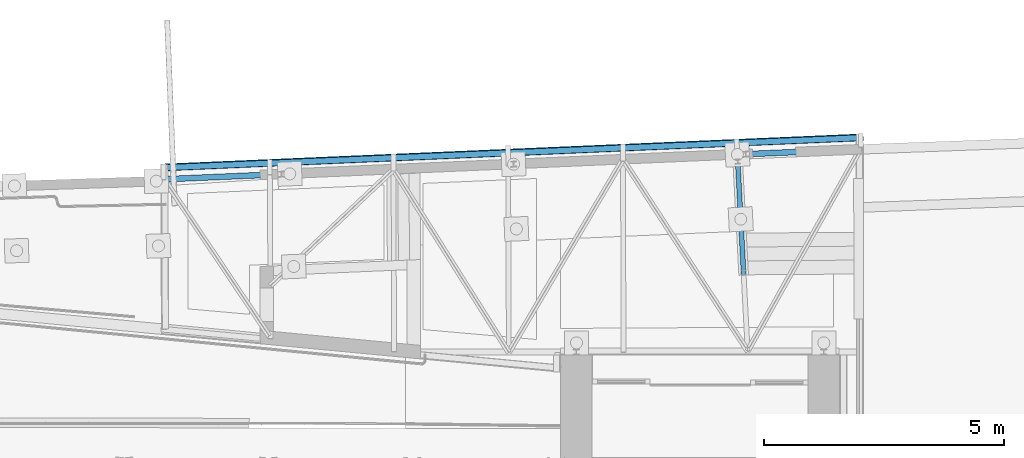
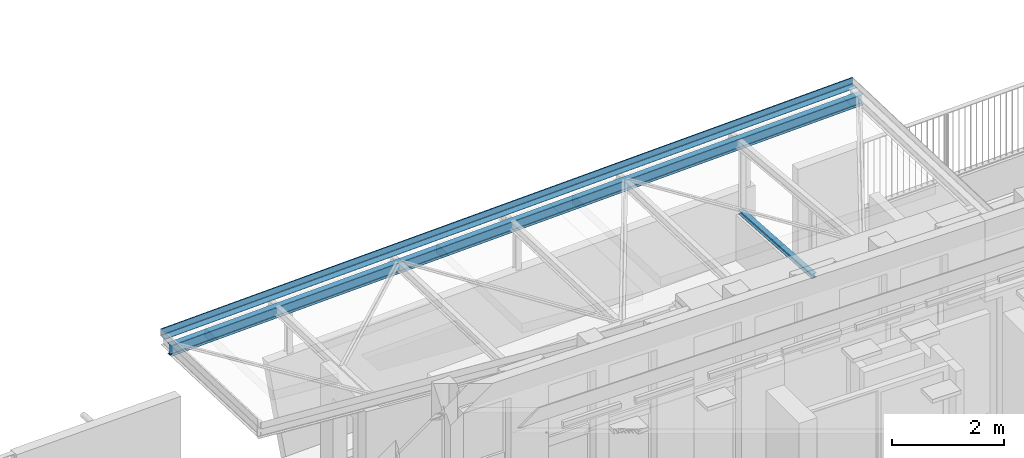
# One storey, part 12 of 128: 3 beams.
"""IFC2X3 building model written with IfcOpenShell, lengths in metres."""

import ifcopenshell
import ifcopenshell.guid

model = None  # the IFC model being written
_history = None  # IfcOwnerHistory: only IFC2X3 demands one
_inside = {}  # id of a spatial element -> (the spatial element, [elements in it])
_under = {}  # id of a project, library or spatial element -> (it, [spatial elements below it])
_declared = {}  # id of a project -> (the project, [libraries it declares])
_typed = {}  # id of a type object -> (the type object, [elements of that type])
_made_of = {}  # id of a material, layer set ... -> (it, [elements and type objects made of it])


def new_model(schema):
    """Start an empty IFC model of exactly this schema.

    Asked for "IFC4X3", IfcOpenShell would pick the latest addendum, in which some entities
    have other attributes; the version numbers below select the first issue.
    IFC2X3 requires an IfcOwnerHistory on every rooted entity: one is made here for all.
    """
    global model, _history
    if schema == "IFC4X3":
        model = ifcopenshell.file(schema_version=(4, 3, 0, 0))
    else:
        model = ifcopenshell.file(schema=schema)
    _inside.clear()
    _under.clear()
    _declared.clear()
    _typed.clear()
    _made_of.clear()
    _history = None
    if model.schema == "IFC2X3":
        org = make("IfcOrganization", Name="unknown")
        user = make(
            "IfcPersonAndOrganization",
            ThePerson=make("IfcPerson", FamilyName="unknown"),
            TheOrganization=org,
        )
        app = make(
            "IfcApplication",
            ApplicationDeveloper=org,
            Version="unknown",
            ApplicationFullName="unknown",
            ApplicationIdentifier="unknown",
        )
        _history = make(
            "IfcOwnerHistory",
            OwningUser=user,
            OwningApplication=app,
            ChangeAction="ADDED",
            CreationDate=0,
        )
    return model


def make(cls, **values):
    """One entity of the class cls with the attributes given. An attribute that is None is left unset."""
    return model.create_entity(
        cls, **{name: value for name, value in values.items() if value is not None}
    )


def entity(cls, *values):
    """Any entity or typed value of the class cls, its attributes in the order of the schema. None: left unset."""
    e = model.create_entity(cls)
    for i, value in enumerate(values):
        if value is not None:
            e[i] = value
    return e


def rooted(cls, **values):
    """An entity with a GlobalId (a new one), such as an element, a storey or a relation."""
    return make(cls, GlobalId=ifcopenshell.guid.new(), OwnerHistory=_history, **values)


def si_unit(unit_type, name, prefix=None):
    """IfcSIUnit, for example si_unit("LENGTHUNIT", "METRE", prefix="MILLI")."""
    return make("IfcSIUnit", UnitType=unit_type, Prefix=prefix, Name=name)


def converted_unit(unit_type, name, factor, base, dimensions=None, offset=None):
    """IfcConversionBasedUnit, such as the inch: factor (a typed value) times the base unit."""
    return make(
        "IfcConversionBasedUnit"
        if offset is None
        else "IfcConversionBasedUnitWithOffset",
        ConversionOffset=offset,
        Dimensions=None
        if dimensions is None
        else entity("IfcDimensionalExponents", *dimensions),
        UnitType=unit_type,
        Name=name,
        ConversionFactor=make(
            "IfcMeasureWithUnit", ValueComponent=factor, UnitComponent=base
        ),
    )


def derived_unit(unit_type, elements):
    """IfcDerivedUnit: a product of units, each with its exponent."""
    return make(
        "IfcDerivedUnit",
        Elements=[
            make("IfcDerivedUnitElement", Unit=unit, Exponent=power)
            for unit, power in elements
        ],
        UnitType=unit_type,
    )


def assignment(units):
    """IfcUnitAssignment: the units of a project."""
    return None if units is None else make("IfcUnitAssignment", Units=units)


def point(xyz):
    """IfcCartesianPoint."""
    return None if xyz is None else make("IfcCartesianPoint", Coordinates=xyz)


def direction(xyz):
    """IfcDirection."""
    return None if xyz is None else make("IfcDirection", DirectionRatios=xyz)


def frame(location, z_axis=None, x_axis=None):
    """IfcAxis2Placement3D, a coordinate frame: its origin and axes. An axis left out is left unset."""
    return make(
        "IfcAxis2Placement3D",
        Location=point(location),
        Axis=direction(z_axis),
        RefDirection=direction(x_axis),
    )


def frame_2d(location, x_axis=None):
    """IfcAxis2Placement2D, a coordinate frame in the plane: its origin and x axis."""
    return make(
        "IfcAxis2Placement2D", Location=point(location), RefDirection=direction(x_axis)
    )


def origin():
    """The frame at (0, 0, 0) with its axes left unset."""
    return frame((0.0, 0.0, 0.0))


def place(relative_to, where):
    """IfcLocalPlacement: puts the frame where relative to a parent placement (None: the world)."""
    return make(
        "IfcLocalPlacement", PlacementRelTo=relative_to, RelativePlacement=where
    )


def context(
    kind, dimensions, precision=None, world=None, true_north=None, identifier=None
):
    """IfcGeometricRepresentationContext, for example the 3D "Model" context."""
    return make(
        "IfcGeometricRepresentationContext",
        ContextIdentifier=identifier,
        ContextType=kind,
        CoordinateSpaceDimension=dimensions,
        Precision=precision,
        WorldCoordinateSystem=world,
        TrueNorth=true_north,
    )


def subcontext(parent, identifier, kind, view, scale=None):
    """IfcGeometricRepresentationSubContext, for example "Body" below "Model"."""
    return make(
        "IfcGeometricRepresentationSubContext",
        ContextIdentifier=identifier,
        ContextType=kind,
        ParentContext=parent,
        TargetScale=scale,
        TargetView=view,
    )


def project(units=None, contexts=None):
    """IfcProject with its units and contexts."""
    return rooted(
        "IfcProject",
        Name="project",
        RepresentationContexts=contexts,
        UnitsInContext=assignment(units),
    )


def spatial(cls, under=None, at=None, **own):
    """A site, building, storey or space (cls), placed at a placement, below another one or the project."""
    s = rooted(cls, ObjectPlacement=at, **own)
    if under is not None:
        _under.setdefault(under.id(), (under, []))[1].append(s)
    return s


def polyline(points):
    """IfcPolyline through the points."""
    return make("IfcPolyline", Points=[point(p) for p in points])


def circle_curve(where, radius):
    """IfcCircle in the frame where."""
    return make("IfcCircle", Position=where, Radius=radius)


def parameter(value):
    """IfcParameterValue: where a trimmed curve begins or ends, as a parameter of its basis curve."""
    return model.create_entity("IfcParameterValue", value)


def trimmed(basis, trim1, trim2, sense, master):
    """IfcTrimmedCurve: the piece of a basis curve between two trims."""
    return make(
        "IfcTrimmedCurve",
        BasisCurve=basis,
        Trim1=trim1,
        Trim2=trim2,
        SenseAgreement=sense,
        MasterRepresentation=master,
    )


def segment(curve, same_sense, transition):
    """IfcCompositeCurveSegment."""
    return make(
        "IfcCompositeCurveSegment",
        Transition=transition,
        SameSense=same_sense,
        ParentCurve=curve,
    )


def composite_curve(segments, self_intersect=None):
    """IfcCompositeCurve: segments joined end to end."""
    return make("IfcCompositeCurve", Segments=segments, SelfIntersect=self_intersect)


def profile(cls, at=None, kind="AREA", **sizes):
    """A parametric profile (cls). Its sizes go by their IFC names, for example OverallWidth=200.0."""
    return make(cls, ProfileType=kind, Position=at, **sizes)


def i_section(**sizes):
    """IfcIShapeProfileDef."""
    return profile("IfcIShapeProfileDef", **sizes)


def outline(outer, holes=None, kind="AREA"):
    """IfcArbitraryClosedProfileDef: a profile drawn as a closed curve; with holes, ...WithVoids."""
    if holes is None:
        return make("IfcArbitraryClosedProfileDef", ProfileType=kind, OuterCurve=outer)
    return make(
        "IfcArbitraryProfileDefWithVoids",
        ProfileType=kind,
        OuterCurve=outer,
        InnerCurves=holes,
    )


def extrude(swept, where, along, depth):
    """IfcExtrudedAreaSolid: the profile swept, set in the frame where, extruded along a direction by depth."""
    return make(
        "IfcExtrudedAreaSolid",
        SweptArea=swept,
        Position=where,
        ExtrudedDirection=direction(along),
        Depth=depth,
    )


def shape(context_of_items, identifier, shape_type, items):
    """IfcShapeRepresentation: the items that make up one representation, for example the "Body"."""
    return make(
        "IfcShapeRepresentation",
        ContextOfItems=context_of_items,
        RepresentationIdentifier=identifier,
        RepresentationType=shape_type,
        Items=items,
    )


def material(Name=None, Category=None):
    """IfcMaterial."""
    return make("IfcMaterial", Name=Name, Category=Category)


def made_of(thing, what):
    """Note that an element or type object is made of a material, layer set ...; save() writes the relation."""
    if what is not None:
        _made_of.setdefault(what.id(), (what, []))[1].append(thing)
    return thing


def type_object(cls, material=None, **own):
    """A type object (cls), such as IfcWallType, which elements share."""
    return made_of(rooted(cls, **own), material)


def element(
    cls,
    number,
    at=None,
    inside=None,
    cuts=None,
    type_object=None,
    material=None,
    context=None,
    identifier="Body",
    shape_type=None,
    held_by="IfcProductDefinitionShape",
    body=None,
    shapes=None,
    **own,
):
    """One element of the class cls, such as IfcWall. Its Tag is "e" and its number.

    at: its placement. inside: the storey or other place that contains it. cuts: it is an
    opening in that element (IfcRelVoidsElement). A single representation is given by context,
    identifier, shape_type and body (its items); several are given by shapes. held_by: the class
    of the entity that holds the representations. save() writes the other relations.
    """
    e = rooted(cls, Tag="e%d" % number, ObjectPlacement=at, **own)
    if body is not None:
        shapes = [shape(context, identifier, shape_type, body)]
    if shapes is not None:
        e.Representation = make(held_by, Representations=shapes)
    if inside is not None:
        _inside.setdefault(inside.id(), (inside, []))[1].append(e)
    if cuts is not None:
        rooted(
            "IfcRelVoidsElement", RelatingBuildingElement=cuts, RelatedOpeningElement=e
        )
    if type_object is not None:
        _typed.setdefault(type_object.id(), (type_object, []))[1].append(e)
    return made_of(e, material)


def aggregate(whole, parts):
    """IfcRelAggregates: a whole, such as a stair, and the parts it consists of."""
    return rooted("IfcRelAggregates", RelatingObject=whole, RelatedObjects=parts)


def save(model, path):
    """Write the relations noted so far, then the file.

    IfcRelAggregates (storeys below a building ...), IfcRelContainedInSpatialStructure (elements
    in a storey), IfcRelDefinesByType, IfcRelAssociatesMaterial and IfcRelDeclares: one each for
    every whole, place, type object, material and project.
    """
    for whole, parts in _under.values():
        aggregate(whole, parts)
    for where, things in _inside.values():
        rooted(
            "IfcRelContainedInSpatialStructure",
            RelatedElements=things,
            RelatingStructure=where,
        )
    for kind, things in _typed.values():
        rooted("IfcRelDefinesByType", RelatedObjects=things, RelatingType=kind)
    for what, things in _made_of.values():
        rooted("IfcRelAssociatesMaterial", RelatedObjects=things, RelatingMaterial=what)
    for by, libraries in _declared.values():
        rooted("IfcRelDeclares", RelatingContext=by, RelatedDefinitions=libraries)
    model.write(path)


model = new_model("IFC2X3")

# Units and contexts
model_context = context("Model", 3, precision=1e-05, world=origin(), true_north=direction((6.123031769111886e-17, 1.0)))
body_context = subcontext(model_context, "Body", "Model", "MODEL_VIEW")
ifc_project = project(units=[si_unit("LENGTHUNIT", "METRE"), si_unit("AREAUNIT", "SQUARE_METRE"), converted_unit("PLANEANGLEUNIT", "DEGREE", entity("IfcPlaneAngleMeasure", 0.017453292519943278), si_unit("PLANEANGLEUNIT", "RADIAN"), dimensions=[0, 0, 0, 0, 0, 0, 0]), derived_unit("THERMALTRANSMITTANCEUNIT", [(si_unit("MASSUNIT", "GRAM", prefix="KILO"), 1), (si_unit("THERMODYNAMICTEMPERATUREUNIT", "KELVIN"), -1), (si_unit("TIMEUNIT", "SECOND"), -3)])], contexts=[model_context])

# Site, building, storey
site_placement = place(None, origin())
site = spatial("IfcSite", under=ifc_project, at=site_placement, Name="Default", CompositionType="ELEMENT")
building_placement = place(site_placement, origin())
building = spatial("IfcBuilding", under=site, at=building_placement, CompositionType="ELEMENT")
storey_placement = place(building_placement, origin())
storey = spatial("IfcBuildingStorey", under=building, at=storey_placement, Name="00_RDC CAF", CompositionType="ELEMENT", Elevation=2.4982504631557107e-13)

# Beams
ifc_material = material(Name="Acier structurel - S235")
beam_type_1 = type_object("IfcBeamType", Name="IPE:IPE240", PredefinedType="BEAM")
beam_1_placement = place(storey_placement, frame((19.02046884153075, 150.42964456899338, 2.603263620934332), z_axis=(0.0013342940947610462, 5.753718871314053e-05, 0.9999991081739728), x_axis=(0.9990706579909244, 0.0430817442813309, -0.0013355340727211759)))
element("IfcBeam", 1, at=beam_1_placement, inside=storey, type_object=beam_type_1, material=ifc_material, Name="IPE:IPE240", ObjectType="IPE:IPE240", context=body_context, shape_type="SweptSolid", body=[
    extrude(i_section(OverallWidth=0.11999999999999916, OverallDepth=0.23999999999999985, WebThickness=0.006200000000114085, FlangeThickness=0.00980000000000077, FilletRadius=0.01499999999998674, at=frame_2d((4.0939474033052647e-16, -8.652800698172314e-15), x_axis=(0.0, 1.0))), frame((-2.518062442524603, 0.0, -0.12000000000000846), z_axis=(1.0, 0.0, 0.0), x_axis=(0.0, 0.0, -1.0)), (0.0, 0.0, 1.0), 14.651940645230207),
])
beam_type_2 = type_object("IfcBeamType", Name="HE-A:HEA100", PredefinedType="BEAM")
beam_2_placement = place(storey_placement, frame((28.52666976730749, 150.71037588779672, 1.0960000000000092), z_axis=(0.0, 0.0, 1.0), x_axis=(0.0523156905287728, -0.9986305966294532, 0.0)))
element("IfcBeam", 2, at=beam_2_placement, inside=storey, type_object=beam_type_2, material=ifc_material, Name="HE-A:HEA100", ObjectType="HE-A:HEA100", context=body_context, shape_type="SweptSolid", body=[
    extrude(i_section(OverallWidth=0.09999999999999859, OverallDepth=0.09599999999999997, WebThickness=0.005000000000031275, FlangeThickness=0.008000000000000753, FilletRadius=0.012000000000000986, at=frame_2d((7.424616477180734e-16, -4.326400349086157e-15), x_axis=(0.0, 1.0))), frame((-0.029566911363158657, 0.0, -0.048000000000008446), z_axis=(1.0, 0.0, 0.0), x_axis=(0.0, 0.0, -1.0)), (0.0, 0.0, 1.0), 2.4147669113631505),
])
beam_type_3 = type_object("IfcBeamType", Name="Cornière à ailes égales:L150x10", PredefinedType="BEAM")
beam_3_placement = place(storey_placement, frame((16.50524346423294, 150.60320972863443, 2.7446228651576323), z_axis=(0.0010481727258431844, 4.517816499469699e-05, 0.9999994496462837), x_axis=(0.9990718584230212, 0.04306182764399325, -0.0010491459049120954)))
element("IfcBeam", 3, at=beam_3_placement, inside=storey, type_object=beam_type_3, material=ifc_material, Name="Cornière à ailes égales:L150x10", ObjectType="Cornière à ailes égales:L150x10", context=body_context, shape_type="SweptSolid", body=[
    extrude(outline(composite_curve([segment(polyline([(0.052444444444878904, -0.0955555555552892), (0.054444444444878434, -0.09555555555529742)]), True, "CONTINUOUS"), segment(polyline([(0.054444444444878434, -0.09555555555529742), (0.05444444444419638, 0.05444444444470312)]), True, "CONTINUOUS"), segment(polyline([(0.054444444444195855, 0.05444444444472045), (-0.09555555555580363, 0.054444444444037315)]), True, "CONTINUOUS"), segment(polyline([(-0.09555555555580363, 0.054444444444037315), (-0.09555555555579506, 0.052444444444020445)]), True, "CONTINUOUS"), segment(trimmed(circle_curve(frame_2d((-0.08755555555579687, 0.052444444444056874), x_axis=(-1.0, 0.0)), 0.0079999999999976), [parameter(0.0)], [parameter(90.00000000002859)], True, "PARAMETER"), True, "CONTINUOUS"), segment(polyline([(-0.08755555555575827, 0.04444444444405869), (0.02844444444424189, 0.04444444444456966)]), True, "CONTINUOUS"), segment(trimmed(circle_curve(frame_2d((0.02844444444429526, 0.028444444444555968), x_axis=(0.0, 1.0)), 0.016000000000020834), [parameter(270.0000000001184)], [parameter(0.0)], True, "PARAMETER"), False, "CONTINUOUS"), segment(polyline([(0.04444444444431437, 0.028444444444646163), (0.04444444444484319, -0.08755555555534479)]), True, "CONTINUOUS"), segment(trimmed(circle_curve(frame_2d((0.05244444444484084, -0.08755555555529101), x_axis=(-1.0, 0.0)), 0.00799999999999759), [parameter(0.0)], [parameter(90.00000000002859)], True, "PARAMETER"), True, "CONTINUOUS")], self_intersect=False)), frame((0.0035397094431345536, -0.014144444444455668, -0.09555555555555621), z_axis=(1.0, 0.0, 0.0), x_axis=(0.0, 0.0, -1.0)), (0.0, 0.0, 1.0), 14.646890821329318),
])

save(model, "model.ifc")
